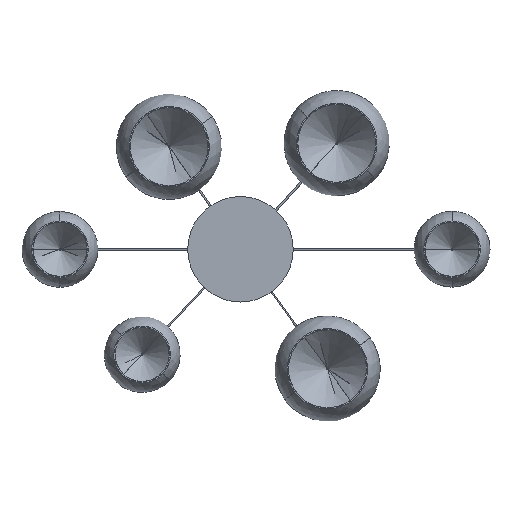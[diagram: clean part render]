
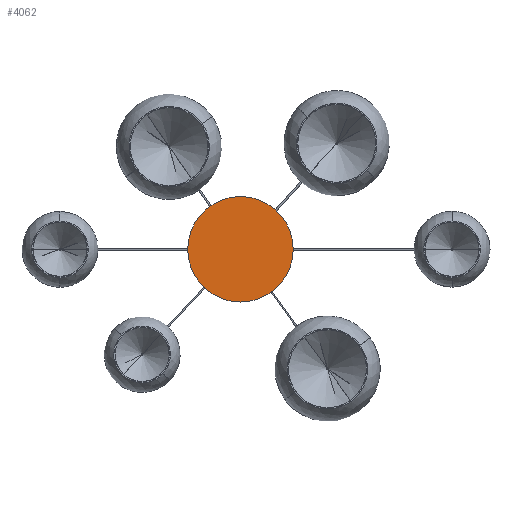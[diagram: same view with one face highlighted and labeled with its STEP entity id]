
A CAD part, front view. The second image highlights one B-rep face of the part: STEP entity #4062.
In plain terms, the highlighted planar face has unit normal (0, -1, 0).
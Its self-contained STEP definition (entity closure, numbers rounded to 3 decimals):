
#460 = DIRECTION ( 'NONE',  ( 0., -1., 0. ) ) ;
#663 = EDGE_CURVE ( 'NONE', #5946, #1405, #4885, .T. ) ;
#1405 = VERTEX_POINT ( 'NONE', #6558 ) ;
#2084 = ORIENTED_EDGE ( 'NONE', *, *, #6724, .T. ) ;
#2105 = CARTESIAN_POINT ( 'NONE',  ( 125., -17., 0. ) ) ;
#2135 = EDGE_LOOP ( 'NONE', ( #7275, #2084 ) ) ;
#2141 = DIRECTION ( 'NONE',  ( 0., 0., -1. ) ) ;
#2798 = PLANE ( 'NONE',  #6741 ) ;
#2910 = CARTESIAN_POINT ( 'NONE',  ( 0., -17., 0. ) ) ;
#3245 = DIRECTION ( 'NONE',  ( 0., -1., 0. ) ) ;
#3408 = CARTESIAN_POINT ( 'NONE',  ( 0., -17., 0. ) ) ;
#3946 = FACE_OUTER_BOUND ( 'NONE', #2135, .T. ) ;
#4010 = DIRECTION ( 'NONE',  ( 0., 0., -1. ) ) ;
#4062 = ADVANCED_FACE ( 'NONE', ( #3946 ), #2798, .T. ) ;
#4673 = DIRECTION ( 'NONE',  ( 0., -1., 0. ) ) ;
#4691 = CARTESIAN_POINT ( 'NONE',  ( 0., -17., -125. ) ) ;
#4885 = CIRCLE ( 'NONE', #4914, 125. ) ;
#4914 = AXIS2_PLACEMENT_3D ( 'NONE', #3408, #460, #6197 ) ;
#5711 = CIRCLE ( 'NONE', #7248, 125. ) ;
#5946 = VERTEX_POINT ( 'NONE', #4691 ) ;
#6197 = DIRECTION ( 'NONE',  ( 0., 0., -1. ) ) ;
#6558 = CARTESIAN_POINT ( 'NONE',  ( 0., -17., 125. ) ) ;
#6724 = EDGE_CURVE ( 'NONE', #1405, #5946, #5711, .T. ) ;
#6741 = AXIS2_PLACEMENT_3D ( 'NONE', #2105, #3245, #2141 ) ;
#7248 = AXIS2_PLACEMENT_3D ( 'NONE', #2910, #4673, #4010 ) ;
#7275 = ORIENTED_EDGE ( 'NONE', *, *, #663, .T. ) ;
